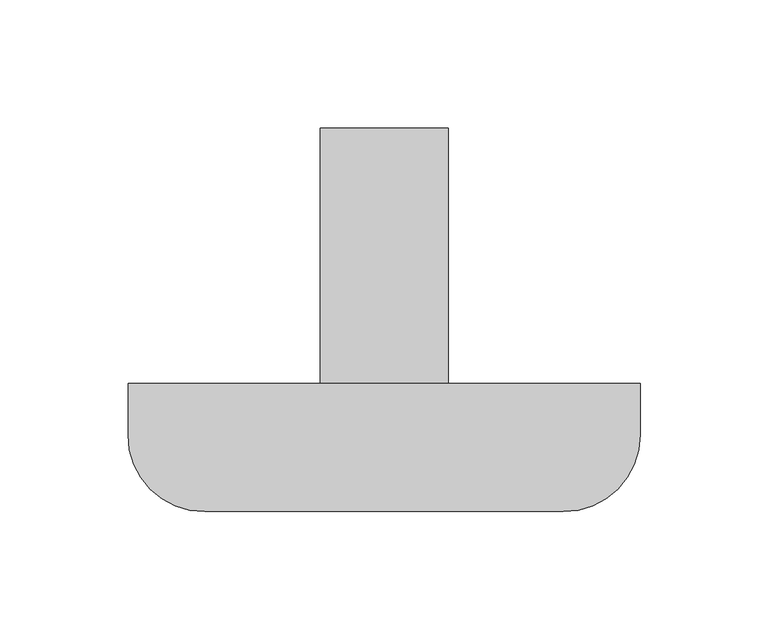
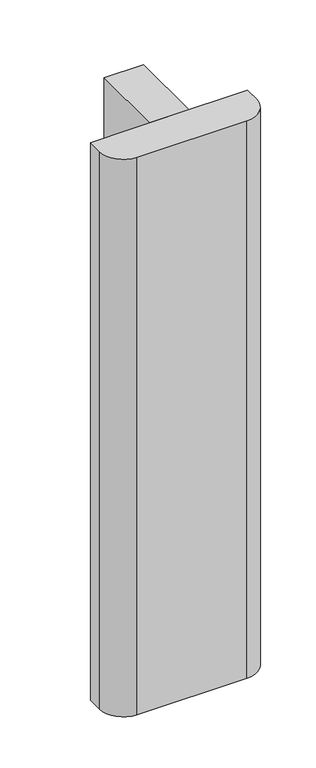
"""IFC4 building model written with IfcOpenShell, lengths in millimetres: flow terminal geometry, BIMHealth-Bed_Vertical_Bumpter-Non_Wall_Hosted-LOD2A-v1 : BIMHealth-Bed_Vertical_Bumpter-Non_Wall_Hosted-LOD2A-v1."""

from ifc_helpers import new_model, si_unit, point, frame_2d, origin, origin_with_axes, place, context, project, spatial, polyline, circle_curve, trimmed, segment, composite_curve, outline, extrude, source, transform, mapped, element, save


def flow_terminal_58a78672(model_context):
    return source(origin(), model_context, "Body", "SweptSolid", [
        extrude(outline(composite_curve([segment(polyline([(-100.0, -100.0), (0.0, -100.0), (100.0, -100.0), (100.0, -120.0)]), True, "CONTINUOUS"), segment(trimmed(circle_curve(frame_2d((70.0, -120.0)), 30.0), [point((100.0, -120.0))], [point((70.0, -150.0))], False, "CARTESIAN"), True, "CONTINUOUS"), segment(polyline([(70.0, -150.0), (-70.0, -150.0)]), True, "CONTINUOUS"), segment(trimmed(circle_curve(frame_2d((-70.0, -120.0)), 30.0), [point((-70.0, -150.0))], [point((-100.0, -120.0))], False, "CARTESIAN"), True, "CONTINUOUS"), segment(polyline([(-100.0, -120.0), (-100.0, -100.0)]), True, "CONTINUOUS")], self_intersect=False)), origin_with_axes(), (0.0, 0.0, 1.0), 750.0),
        extrude(outline(polyline([(-25.0, 0.0), (25.0, 0.0), (25.0, -100.0), (-25.0, -100.0), (-25.0, 0.0)])), origin_with_axes(), (0.0, 0.0, 1.0), 750.0),
    ])


if __name__ == "__main__":
    model = new_model("IFC4")
    model_context = context("Model", 3, world=origin())
    ifc_project = project(units=[si_unit("LENGTHUNIT", "METRE", prefix="MILLI")], contexts=[model_context])
    site = spatial("IfcSite", under=ifc_project)
    building = spatial("IfcBuilding", under=site)
    placement = place(None, origin())
    flow_terminal_shape = flow_terminal_58a78672(model_context)
    element("IfcFlowTerminal", 1, ObjectType="BIMHealth-Bed_Vertical_Bumpter-Non_Wall_Hosted-LOD2A-v1 : BIMHealth-Bed_Vertical_Bumpter-Non_Wall_Hosted-LOD2A-v1", at=placement, inside=building, context=model_context, shape_type="MappedRepresentation", body=[
        mapped(flow_terminal_shape, transform((0.0, 0.0, 0.0), x_axis=(1.0, 0.0, 0.0), y_axis=(0.0, 1.0, 0.0), z_axis=(0.0, 0.0, 1.0))),
    ])
    save(model, "model.ifc")
